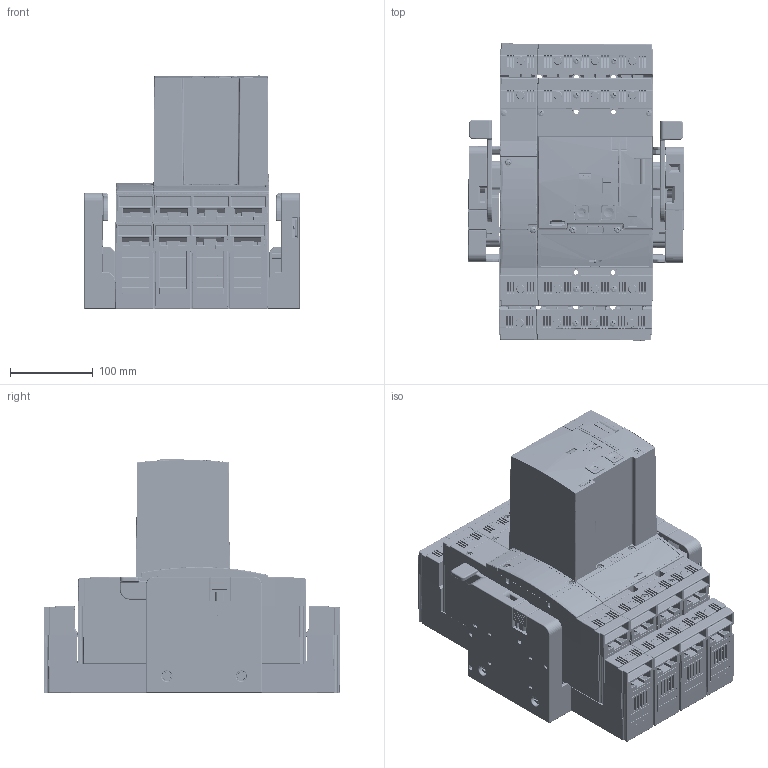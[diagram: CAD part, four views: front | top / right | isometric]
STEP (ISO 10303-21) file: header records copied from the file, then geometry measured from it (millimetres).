
FILE_DESCRIPTION (( 'STEP AP214' ), '1' );
FILE_NAME ('BH630__405_406__SE-BH__MP-BH__ZV-4.step', '2011-07-29T11:24:51', ( 'Radek Veselý' ), ( 'Siemens and Partners' ), 'SwSTEP 2.0', 'SolidWorks 2006303', '' );
FILE_SCHEMA (( 'AUTOMOTIVE_DESIGN' ));
Length unit declared in the file: millimetre
Products named in the file (1): BH630__405_406__SE-BH__MP-BH__ZV-4
Bounding box: 260.39 x 358.67 x 281.97 mm (x, y, z)
Volume: 3422035 mm3; surface area: 2127444 mm2
Topology: 77 solids, 77 shells, 22434 faces, 60630 edges, 38492 vertices
Faces by surface type: plane 13832, cylinder 5663, bspline 1055, torus 714, cone 644, sphere 526
Entity records: 993994 total; most frequent: CARTESIAN_POINT 194209, ORIENTED_EDGE 120258, DIRECTION 108532, EDGE_CURVE 60129, VECTOR 42666, LINE 42666, VERTEX_POINT 38478, AXIS2_PLACEMENT_3D 32933
